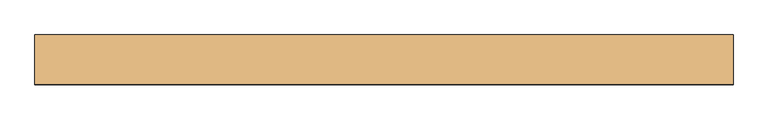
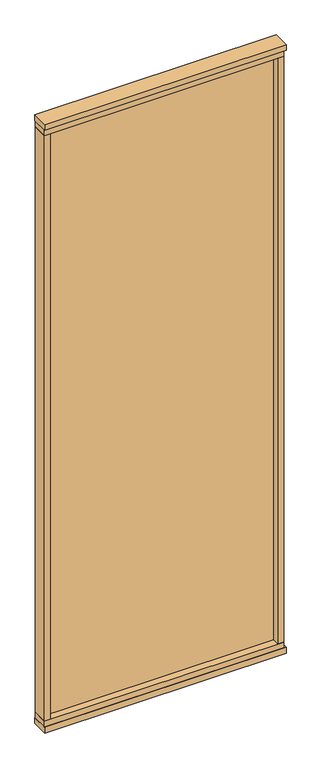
"""IFC4 building model written with IfcOpenShell, lengths in millimetres: door geometry, Mobiliário_Mobiliário de Escritório_Painel de Vidro Simples - AUT E AUL (Complementar)_Marelli : AUT - Temperado."""

from ifc_helpers import new_model, si_unit, frame, origin, origin_with_axes, place, context, project, spatial, polyline, outline, extrude, source, transform, mapped, element, save


def door_5d7b52eb(model_context):
    return source(origin(), model_context, "Body", "SweptSolid", [
        extrude(outline(polyline([(600.0, -42.5), (-600.0, -42.5), (-600.0, 42.5), (600.0, 42.5), (600.0, -42.5)])), origin_with_axes(), (0.0, 0.0, 1.0), 30.0),
        extrude(outline(polyline([(590.0, -39.5), (-600.0, -39.5), (-600.0, 39.5), (590.0, 39.5), (590.0, -39.5)])), frame((0.0, 0.0, 30.0), z_axis=(0.0, 0.0, 1.0), x_axis=(1.0, 0.0, 0.0)), (0.0, 0.0, 1.0), 30.0),
        extrude(outline(polyline([(600.0, -42.5), (-600.0, -42.5), (-600.0, 42.5), (600.0, 42.5), (600.0, -42.5)])), frame((0.0, 0.0, 3170.0), z_axis=(0.0, 0.0, 1.0), x_axis=(1.0, 0.0, 0.0)), (0.0, 0.0, 1.0), 30.0),
        extrude(outline(polyline([(590.0, -39.5), (-600.0, -39.5), (-600.0, 39.5), (590.0, 39.5), (590.0, -39.5)])), frame((0.0, 0.0, 3140.0), z_axis=(0.0, 0.0, 1.0), x_axis=(1.0, 0.0, 0.0)), (0.0, 0.0, 1.0), 30.0),
        extrude(outline(polyline([(600.0, 21.5), (600.0, -21.5), (590.0, -21.5), (590.0, 21.5), (600.0, 21.5)])), frame((0.0, 0.0, 30.0), z_axis=(0.0, 0.0, 1.0), x_axis=(1.0, 0.0, 0.0)), (0.0, 0.0, 1.0), 3140.0),
        extrude(outline(polyline([(560.0, -39.5), (560.0, 39.5), (590.0, 39.5), (590.0, -39.5), (560.0, -39.5)])), frame((0.0, 0.0, 60.0), z_axis=(0.0, 0.0, 1.0), x_axis=(1.0, 0.0, 0.0)), (0.0, 0.0, 1.0), 3080.0),
        extrude(outline(polyline([(-570.0, -39.5), (-600.0, -39.5), (-600.0, 39.5), (-570.0, 39.5), (-570.0, -39.5)])), frame((0.0, 0.0, 60.0), z_axis=(0.0, 0.0, 1.0), x_axis=(1.0, 0.0, 0.0)), (0.0, 0.0, 1.0), 3080.0),
        extrude(outline(polyline([(560.0, -3.0), (-570.0, -3.0), (-570.0, 3.0), (560.0, 3.0), (560.0, -3.0)])), frame((0.0, 0.0, 60.0), z_axis=(0.0, 0.0, 1.0), x_axis=(1.0, 0.0, 0.0)), (0.0, 0.0, 1.0), 3080.0),
    ])


if __name__ == "__main__":
    model = new_model("IFC4")
    model_context = context("Model", 3, world=origin())
    ifc_project = project(units=[si_unit("LENGTHUNIT", "METRE", prefix="MILLI")], contexts=[model_context])
    site = spatial("IfcSite", under=ifc_project)
    building = spatial("IfcBuilding", under=site)
    placement = place(None, origin())
    door_shape = door_5d7b52eb(model_context)
    element("IfcDoor", 1, ObjectType="Mobiliário_Mobiliário de Escritório_Painel de Vidro Simples - AUT E AUL (Complementar)_Marelli : AUT - Temperado", at=placement, inside=building, context=model_context, shape_type="MappedRepresentation", body=[
        mapped(door_shape, transform((0.0, 0.0, 0.0), x_axis=(1.0, 0.0, 0.0), y_axis=(0.0, 1.0, 0.0), z_axis=(0.0, 0.0, 1.0))),
    ])
    save(model, "model.ifc")
